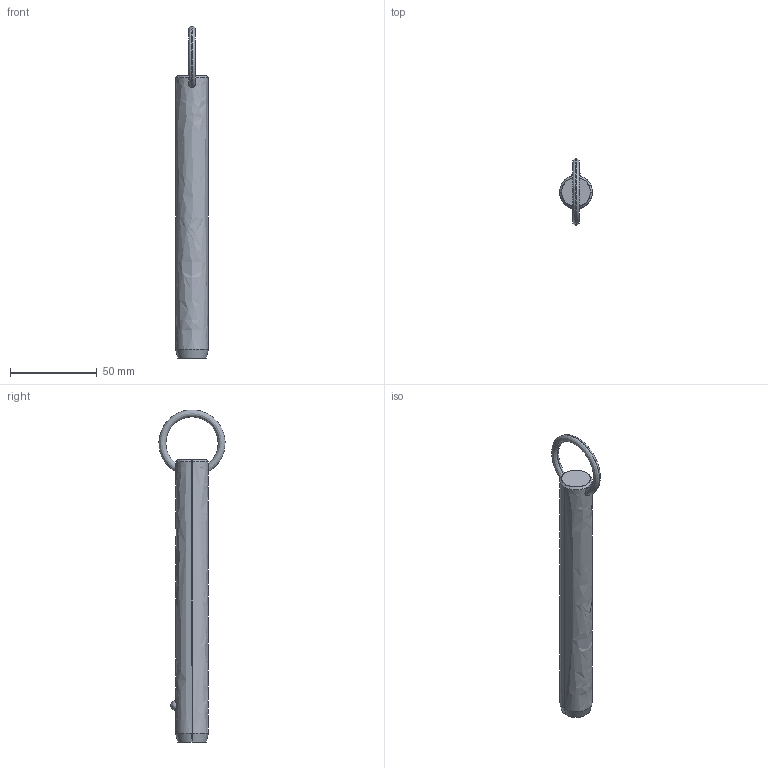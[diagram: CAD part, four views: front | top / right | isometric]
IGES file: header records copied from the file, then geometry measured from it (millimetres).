
Start section: SolidWorks IGES file using analytic representation for surfaces
Global section: file name: C:\Users\liam_\OneDrive\Documents\WORK\Work for WixRoyd\Job Files\J-00019 - Matt Davis CAD Checking\04. CAD Drawings\automotion20190605\P1250.2_v2\P1250.2_v2_20190729_IGES\P1250.075-510.igs; native system: SolidWorks 2017; preprocessor: SolidWorks 2017; author: liam_; date: 190729.235638; units: millimetre
Bounding box: 19 x 38.1 x 191.29 mm (x, y, z)
Surface area: 11244.4 mm2 (no closed solid volume)
Topology: 0 solids, 0 shells, 12 faces, 294 edges, 292 vertices
Faces by surface type: revolution 8, bspline 4
